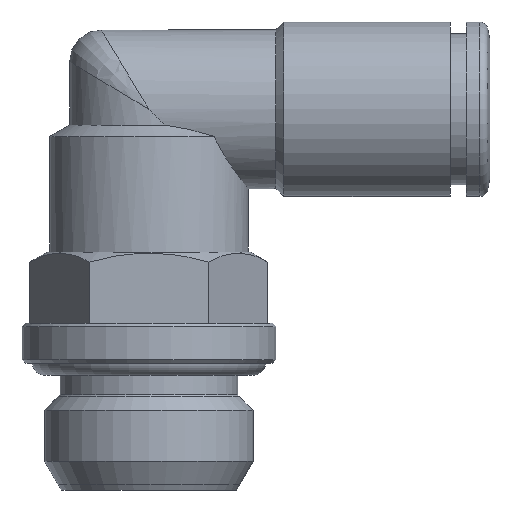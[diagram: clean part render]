
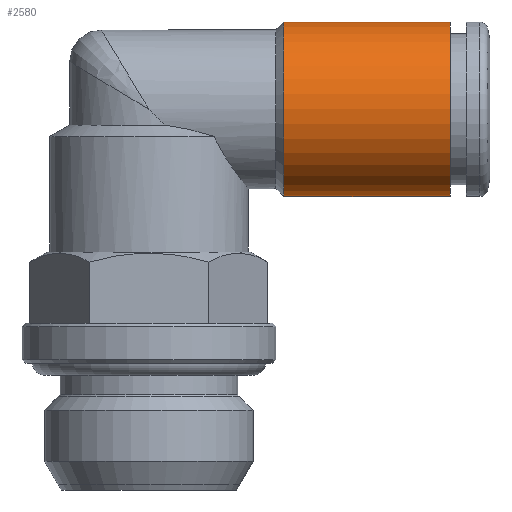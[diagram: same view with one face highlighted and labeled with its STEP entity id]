
A CAD part, front view. The second image highlights one B-rep face of the part: STEP entity #2580.
In plain terms, the highlighted cylindrical face has radius 5.5 mm (diameter 11 mm), a full revolution.
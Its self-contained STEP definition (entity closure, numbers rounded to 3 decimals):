
#2580=ADVANCED_FACE('', (#2590,#2600), #2610, .T.);
#7450=AXIS2_PLACEMENT_3D('Ax2Pl3d', #7460, #7470, #7480);
#8370=AXIS2_PLACEMENT_3D('Ax2Pl3d', #8380, #8390, #8400);
#8410=AXIS2_PLACEMENT_3D('Ax2Pl3d', #8420, #8430, #8440);
#7460=CARTESIAN_POINT('HicPkt', (33.893,12.125,
28.121));
#21970=CARTESIAN_POINT('', (33.893,12.125,33.621));
#8380=CARTESIAN_POINT('HicPkt', (33.893,12.125,
28.121));
#8420=CARTESIAN_POINT('HicPkt', (23.393,12.125,
28.121));
#22110=CARTESIAN_POINT('', (23.393,12.125,33.621));
#22710=CIRCLE('Circle', #7450, 5.5);
#22810=CIRCLE('Circle', #8410, 5.5);
#2610=CYLINDRICAL_SURFACE('Zyl', #8370, 5.5);
#7470=DIRECTION('Axis', (1.,0.,0.));
#7480=DIRECTION('RefDirection', (0.,0.,-1.));
#8390=DIRECTION('Axis', (-1.,0.,0.))
;
#8400=DIRECTION('RefDirection', (0.,
0.,-1.));
#8430=DIRECTION('Axis', (1.,0.,0.));
#8440=DIRECTION('RefDirection', (0.,0.,-1.));
#27150=EDGE_CURVE('', #27160, #27160, #22710, .T.);
#27530=EDGE_CURVE('', #27540, #27540, #22810, .T.);
#30540=EDGE_LOOP('Edge_loop', (#30550));
#30560=EDGE_LOOP('Edge_loop', (#30570));
#2600=FACE_BOUND('', #30560, .T.);
#2590=FACE_OUTER_BOUND('Face_outer_bound', #30540, .T.);
#30550=ORIENTED_EDGE('', *, *, #27530, .T.);
#30570=ORIENTED_EDGE('', *, *, #27150, .F.);
#27160=VERTEX_POINT('', #21970);
#27540=VERTEX_POINT('', #22110);
